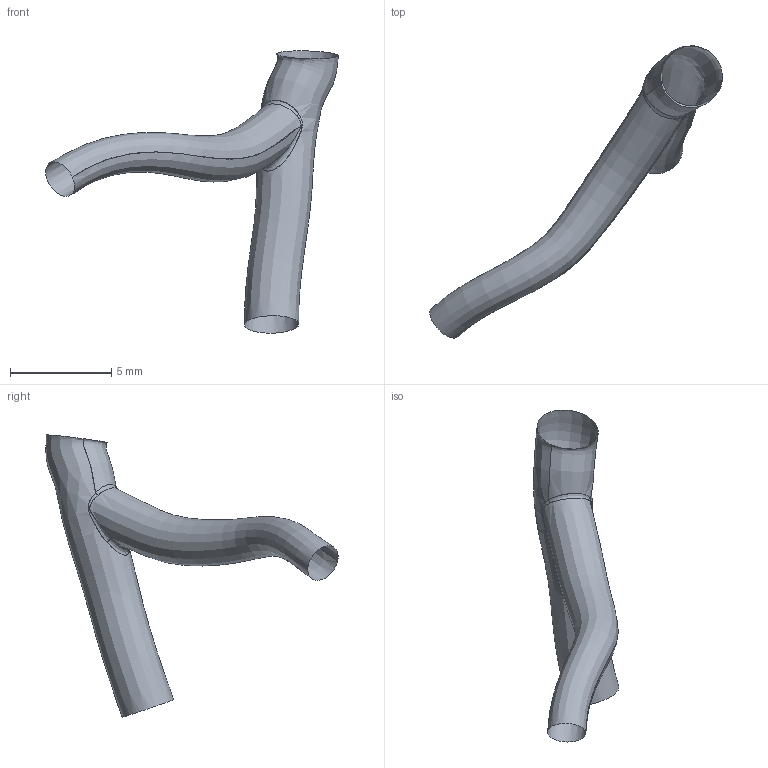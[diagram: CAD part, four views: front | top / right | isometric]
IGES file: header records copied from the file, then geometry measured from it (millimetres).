
Global section: file name: C:\Documents and Settings\Administrator\Desktop\FDA-Pig\Domestic LCA\Pig_000011\lcx.ed.igs; native system: Rhinoceros ( May 19 2006 ); preprocessor: Trout Lake IGES 012 May 19 2006; date: 111205.183950; units: centimetre
Bounding box: 14.44 x 14.41 x 13.92 mm (x, y, z)
Surface area: 221.9 mm2 (no closed solid volume)
Topology: 0 solids, 0 shells, 5 faces, 54 edges, 53 vertices
Faces by surface type: bspline 5
